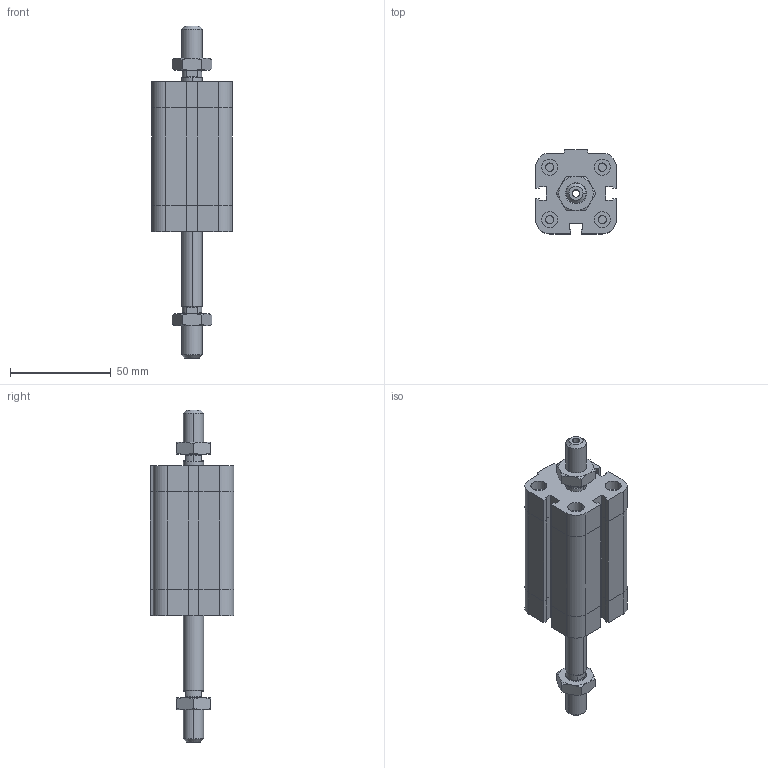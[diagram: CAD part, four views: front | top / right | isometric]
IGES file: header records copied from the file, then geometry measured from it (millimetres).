
Global section: file name: No Iges File Name specified; native system: Autodesk Inventor 2009; preprocessor: AutoDesk Inventor Iges Exporter R2009; author: maffial1; date: 20090420.142656; units: millimetre
Bounding box: 40 x 41.5 x 164.5 mm (x, y, z)
Volume: 113487 mm3; surface area: 31050.7 mm2
Topology: 4 solids, 4 shells, 262 faces, 580 edges, 346 vertices
Faces by surface type: plane 129, bspline 53, cone 38, cylinder 22, revolution 20
